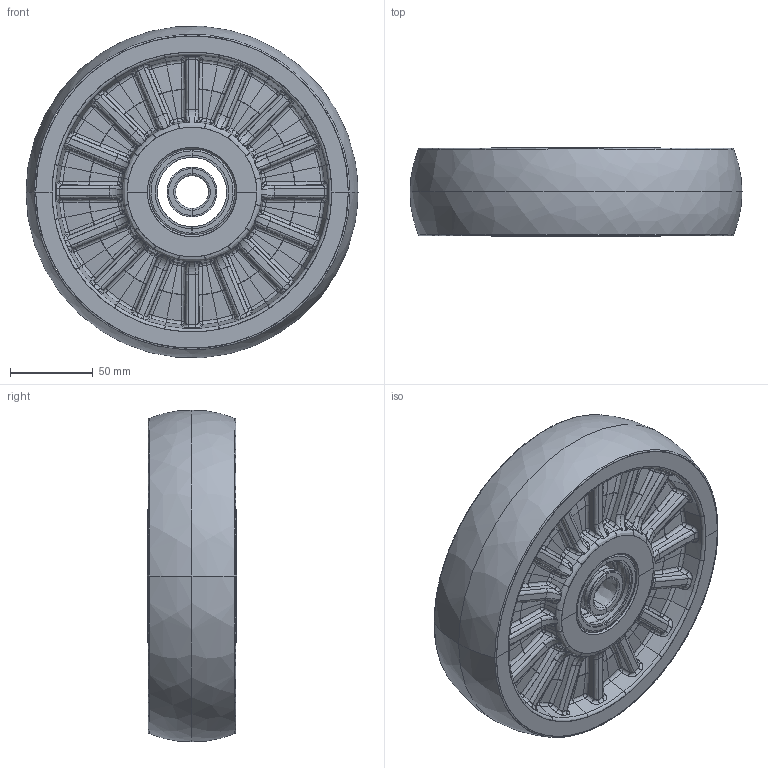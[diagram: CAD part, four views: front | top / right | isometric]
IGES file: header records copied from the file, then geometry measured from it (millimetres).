
Start section: JAMA-IS VERSION  1.0
Global section: file name: C:\CAM-TOOL data\ToolsFile\INOAC車輪\3月\ME-200W-ALL.igs; native system: CAM-TOOL; preprocessor: C3out Version 11.1.1.50212 (2015/02/12); author: NONE; organization: NONE; date: 230307.233210; units: millimetre
Bounding box: 201 x 54 x 200.49 mm (x, y, z)
Surface area: 138437.5 mm2 (no closed solid volume)
Topology: 0 solids, 0 shells, 1536 faces, 11916 edges, 12496 vertices
Faces by surface type: bspline 1536
